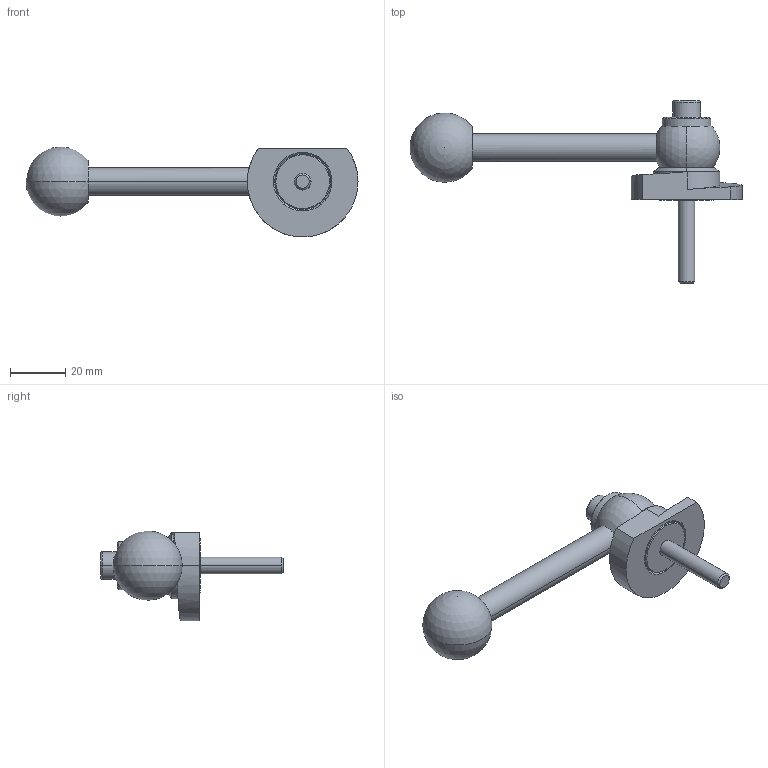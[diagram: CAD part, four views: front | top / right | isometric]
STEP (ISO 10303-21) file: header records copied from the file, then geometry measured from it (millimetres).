
FILE_DESCRIPTION (( 'STEP AP214' ), '1' );
FILE_NAME ('918.1-40-GVS-R-30.step', '2024-05-15T12:59:42', ( '' ), ( '' ), 'SwSTEP 2.0', 'SolidWorks 2022', '' );
FILE_SCHEMA (( 'AUTOMOTIVE_DESIGN' ));
Length unit declared in the file: millimetre
Products named in the file (1): 918.1-40-GVS-R-30
Bounding box: 120 x 66 x 32.5 mm (x, y, z)
Volume: 30356 mm3; surface area: 11304.6 mm2
Topology: 1 solids, 1 shells, 64 faces, 147 edges, 93 vertices
Faces by surface type: cylinder 22, plane 20, cone 14, sphere 4, torus 2, bspline 2
Entity records: 2045 total; most frequent: CARTESIAN_POINT 590, DIRECTION 321, ORIENTED_EDGE 274, EDGE_CURVE 137, AXIS2_PLACEMENT_3D 131, VERTEX_POINT 87, EDGE_LOOP 76, CIRCLE 68
